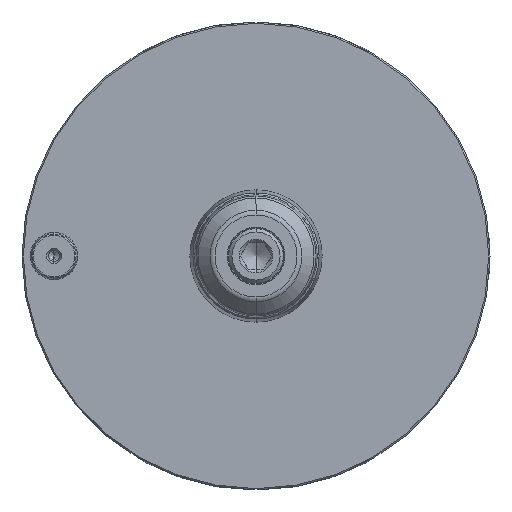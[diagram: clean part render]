
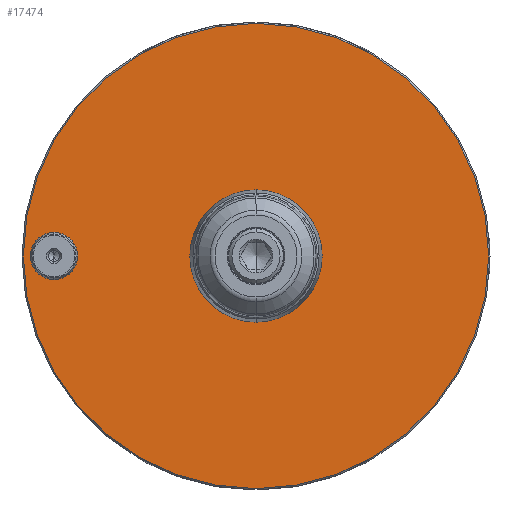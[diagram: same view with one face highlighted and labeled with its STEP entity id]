
A CAD part, left-side view. The second image highlights one B-rep face of the part: STEP entity #17474.
In plain terms, the highlighted planar face has unit normal (-1, 0, 0).
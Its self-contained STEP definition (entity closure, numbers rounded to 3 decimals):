
#565 = DIRECTION ( 'NONE',  ( 0., 0., -1. ) ) ;
#769 = EDGE_LOOP ( 'NONE', ( #18296, #14108, #15434, #1271, #5456, #14231 ) ) ;
#872 = EDGE_CURVE ( 'NONE', #9068, #18503, #8816, .T. ) ;
#1057 = DIRECTION ( 'NONE',  ( 0., 0., 1. ) ) ;
#1271 = ORIENTED_EDGE ( 'NONE', *, *, #13007, .T. ) ;
#1291 = VECTOR ( 'NONE', #5505, 1000. ) ;
#1514 = AXIS2_PLACEMENT_3D ( 'NONE', #6964, #3199, #15722 ) ;
#2067 = EDGE_CURVE ( 'NONE', #13582, #21465, #14075, .T. ) ;
#2387 = CARTESIAN_POINT ( 'NONE',  ( 0., 52., 0. ) ) ;
#2633 = DIRECTION ( 'NONE',  ( 0., 0., 1. ) ) ;
#2911 = ORIENTED_EDGE ( 'NONE', *, *, #19555, .F. ) ;
#3199 = DIRECTION ( 'NONE',  ( -1., 0., 0. ) ) ;
#3216 = CARTESIAN_POINT ( 'NONE',  ( 0., 0., -68.998 ) ) ;
#3348 = CARTESIAN_POINT ( 'NONE',  ( 0., 0.102, -69.1 ) ) ;
#3365 = CARTESIAN_POINT ( 'NONE',  ( 0., -4.977, 73.975 ) ) ;
#3982 = FACE_BOUND ( 'NONE', #20622, .T. ) ;
#4497 = LINE ( 'NONE', #6324, #13929 ) ;
#5456 = ORIENTED_EDGE ( 'NONE', *, *, #20962, .T. ) ;
#5505 = DIRECTION ( 'NONE',  ( 0., -0.707, -0.707 ) ) ;
#5645 = AXIS2_PLACEMENT_3D ( 'NONE', #15206, #13517, #12039 ) ;
#5677 = ORIENTED_EDGE ( 'NONE', *, *, #2067, .F. ) ;
#5715 = CARTESIAN_POINT ( 'NONE',  ( 0., 60., 6.4 ) ) ;
#6324 = CARTESIAN_POINT ( 'NONE',  ( 0., 0., 68.998 ) ) ;
#6439 = AXIS2_PLACEMENT_3D ( 'NONE', #11078, #10972, #14488 ) ;
#6813 = VERTEX_POINT ( 'NONE', #9170 ) ;
#6964 = CARTESIAN_POINT ( 'NONE',  ( 0., 0., 0. ) ) ;
#7296 = DIRECTION ( 'NONE',  ( 1., 0., 0. ) ) ;
#7620 = PLANE ( 'NONE',  #17970 ) ;
#8717 = LINE ( 'NONE', #3365, #20437 ) ;
#8720 = EDGE_CURVE ( 'NONE', #15171, #15152, #8717, .T. ) ;
#8816 = LINE ( 'NONE', #10874, #1291 ) ;
#9017 = CARTESIAN_POINT ( 'NONE',  ( 0., 0.102, 69.1 ) ) ;
#9068 = VERTEX_POINT ( 'NONE', #14501 ) ;
#9071 = CARTESIAN_POINT ( 'NONE',  ( 0., 60., -6.4 ) ) ;
#9164 = ORIENTED_EDGE ( 'NONE', *, *, #19964, .F. ) ;
#9170 = CARTESIAN_POINT ( 'NONE',  ( 0., 0., 12.9 ) ) ;
#10065 = DIRECTION ( 'NONE',  ( -1., 0., 0. ) ) ;
#10489 = VERTEX_POINT ( 'NONE', #18393 ) ;
#10717 = CARTESIAN_POINT ( 'NONE',  ( 0., -0.102, 69.1 ) ) ;
#10727 = AXIS2_PLACEMENT_3D ( 'NONE', #21946, #10065, #1057 ) ;
#10874 = CARTESIAN_POINT ( 'NONE',  ( 0., -4.977, -73.975 ) ) ;
#10972 = DIRECTION ( 'NONE',  ( -1., 0., 0. ) ) ;
#10989 = CIRCLE ( 'NONE', #1514, 12.9 ) ;
#11078 = CARTESIAN_POINT ( 'NONE',  ( 0., 60., 0. ) ) ;
#11477 = EDGE_CURVE ( 'NONE', #18503, #15171, #16075, .T. ) ;
#11579 = EDGE_CURVE ( 'NONE', #10489, #6813, #10989, .T. ) ;
#12039 = DIRECTION ( 'NONE',  ( 0., 0., 1. ) ) ;
#12432 = FACE_BOUND ( 'NONE', #21875, .T. ) ;
#13007 = EDGE_CURVE ( 'NONE', #15152, #19645, #4497, .T. ) ;
#13290 = DIRECTION ( 'NONE',  ( 0., 0.707, 0.707 ) ) ;
#13399 = EDGE_CURVE ( 'NONE', #21636, #9068, #18991, .T. ) ;
#13517 = DIRECTION ( 'NONE',  ( -1., 0., 0. ) ) ;
#13582 = VERTEX_POINT ( 'NONE', #5715 ) ;
#13929 = VECTOR ( 'NONE', #13290, 1000. ) ;
#13974 = DIRECTION ( 'NONE',  ( 0., 0., 1. ) ) ;
#14075 = CIRCLE ( 'NONE', #6439, 6.4 ) ;
#14108 = ORIENTED_EDGE ( 'NONE', *, *, #11477, .T. ) ;
#14231 = ORIENTED_EDGE ( 'NONE', *, *, #13399, .T. ) ;
#14488 = DIRECTION ( 'NONE',  ( 0., 0., 1. ) ) ;
#14501 = CARTESIAN_POINT ( 'NONE',  ( 0., 0., -68.998 ) ) ;
#14711 = CIRCLE ( 'NONE', #17648, 6.4 ) ;
#15152 = VERTEX_POINT ( 'NONE', #22611 ) ;
#15171 = VERTEX_POINT ( 'NONE', #10717 ) ;
#15206 = CARTESIAN_POINT ( 'NONE',  ( 0., 0., 0. ) ) ;
#15407 = DIRECTION ( 'NONE',  ( 0., -0.707, 0.707 ) ) ;
#15434 = ORIENTED_EDGE ( 'NONE', *, *, #8720, .T. ) ;
#15722 = DIRECTION ( 'NONE',  ( 0., 0., 1. ) ) ;
#16075 = CIRCLE ( 'NONE', #21221, 69.1 ) ;
#16175 = FACE_OUTER_BOUND ( 'NONE', #769, .T. ) ;
#16765 = ORIENTED_EDGE ( 'NONE', *, *, #11579, .F. ) ;
#16841 = VECTOR ( 'NONE', #15407, 1000. ) ;
#17289 = DIRECTION ( 'NONE',  ( 0., 0.707, -0.707 ) ) ;
#17320 = CARTESIAN_POINT ( 'NONE',  ( 0., -0.102, -69.1 ) ) ;
#17474 = ADVANCED_FACE ( 'NONE', ( #12432, #3982, #16175 ), #7620, .F. ) ;
#17648 = AXIS2_PLACEMENT_3D ( 'NONE', #17867, #21424, #13974 ) ;
#17867 = CARTESIAN_POINT ( 'NONE',  ( 0., 60., 0. ) ) ;
#17970 = AXIS2_PLACEMENT_3D ( 'NONE', #2387, #7296, #565 ) ;
#18296 = ORIENTED_EDGE ( 'NONE', *, *, #872, .T. ) ;
#18393 = CARTESIAN_POINT ( 'NONE',  ( 0., 0., -12.9 ) ) ;
#18503 = VERTEX_POINT ( 'NONE', #17320 ) ;
#18991 = LINE ( 'NONE', #3216, #16841 ) ;
#19555 = EDGE_CURVE ( 'NONE', #6813, #10489, #21663, .T. ) ;
#19645 = VERTEX_POINT ( 'NONE', #9017 ) ;
#19907 = DIRECTION ( 'NONE',  ( -1., 0., 0. ) ) ;
#19964 = EDGE_CURVE ( 'NONE', #21465, #13582, #14711, .T. ) ;
#20130 = CARTESIAN_POINT ( 'NONE',  ( 0., 0., 0. ) ) ;
#20437 = VECTOR ( 'NONE', #17289, 1000. ) ;
#20622 = EDGE_LOOP ( 'NONE', ( #2911, #16765 ) ) ;
#20962 = EDGE_CURVE ( 'NONE', #19645, #21636, #22440, .T. ) ;
#21221 = AXIS2_PLACEMENT_3D ( 'NONE', #20130, #19907, #2633 ) ;
#21424 = DIRECTION ( 'NONE',  ( -1., 0., 0. ) ) ;
#21465 = VERTEX_POINT ( 'NONE', #9071 ) ;
#21636 = VERTEX_POINT ( 'NONE', #3348 ) ;
#21663 = CIRCLE ( 'NONE', #10727, 12.9 ) ;
#21875 = EDGE_LOOP ( 'NONE', ( #5677, #9164 ) ) ;
#21946 = CARTESIAN_POINT ( 'NONE',  ( 0., 0., 0. ) ) ;
#22440 = CIRCLE ( 'NONE', #5645, 69.1 ) ;
#22611 = CARTESIAN_POINT ( 'NONE',  ( 0., 0., 68.998 ) ) ;
